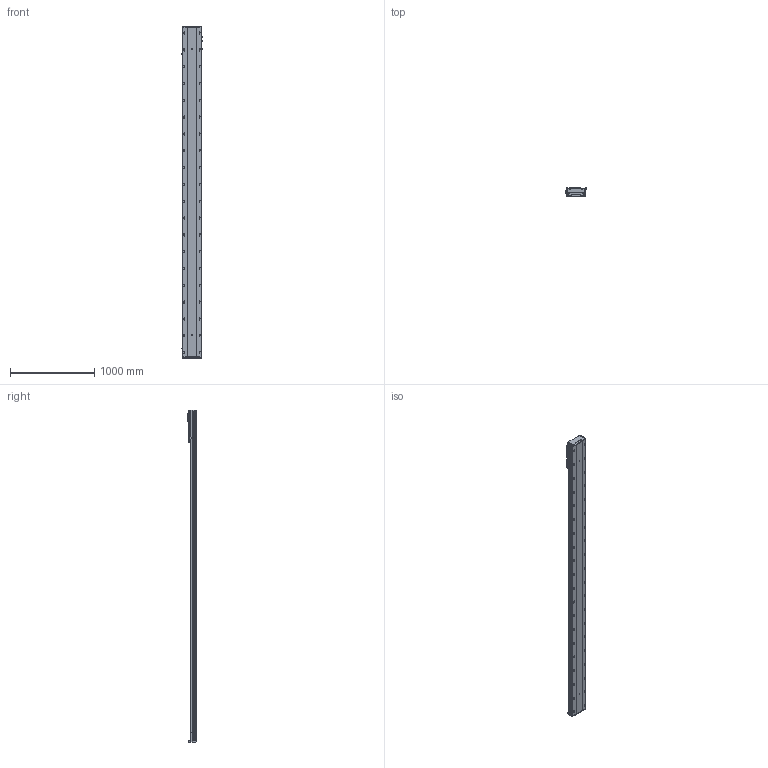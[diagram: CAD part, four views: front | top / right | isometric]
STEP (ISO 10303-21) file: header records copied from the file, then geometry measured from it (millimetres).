
FILE_DESCRIPTION (( 'STEP AP203' ), '1' );
FILE_NAME ('BEH22-A-M2-3500-L1-¦Õ22-PCD100-M6-C3.STEP', '2022-06-21T06:12:25', ( 'CXY' ), ( 'BT' ), 'SwSTEP 2.0', 'SolidWorks 2016', '' );
FILE_SCHEMA (( 'CONFIG_CONTROL_DESIGN' ));
Length unit declared in the file: millimetre
Products named in the file (12): FS-25-6.66-M2-H22K6; BEH22-07-PCD100-80-M6; 萇儂階踡輸; BEH22-04-F; BTH22-07-DZ; FS-02-BTH22; PM-T65; BEH22-B-01-XX-2; BEH22-A-M2-3500-L1-耳22-PCD100-M6-C3; BEH22-04-01_L; _G-M6; FS-01-10（10毫米）
Assembly tree (18 placements, depth 3):
  BEH22-A-M2-3500-L1-耳22-PCD100-M6-C3
    BEH22-B-01-XX-2
    BTH22-07-DZ  x2
    PM-T65  x2
    BEH22-04-01_L
      BEH22-04-F
      萇儂階踡輸
      _G-M6  x3
      FS-02-BTH22
      FS-01-10（10毫米）  x4
      BEH22-07-PCD100-80-M6
      FS-25-6.66-M2-H22K6
Bounding box: 247.7 x 111 x 3948 mm (x, y, z)
Volume: 40751822.6 mm3; surface area: 3965439.7 mm2
Topology: 21 solids, 21 shells, 2544 faces, 7516 edges, 4890 vertices
Faces by surface type: cylinder 1328, plane 924, cone 233, bspline 37, torus 22
Entity records: 475156 total; most frequent: CARTESIAN_POINT 417375, ORIENTED_EDGE 12852, DIRECTION 10726, EDGE_CURVE 6426, VERTEX_POINT 4250, AXIS2_PLACEMENT_3D 3908, VECTOR 2910, LINE 2910
